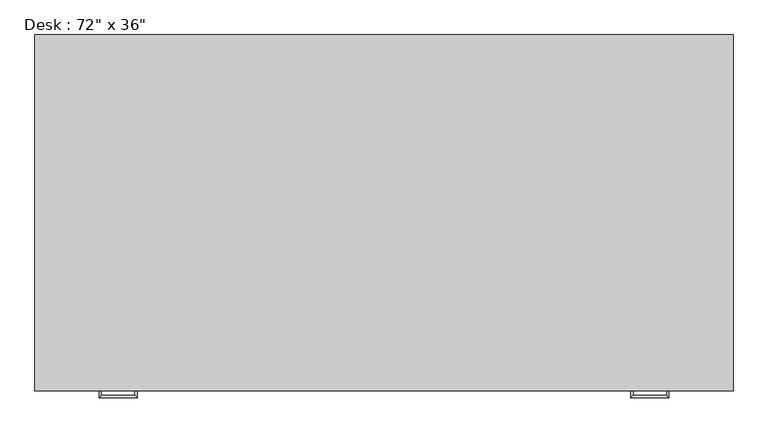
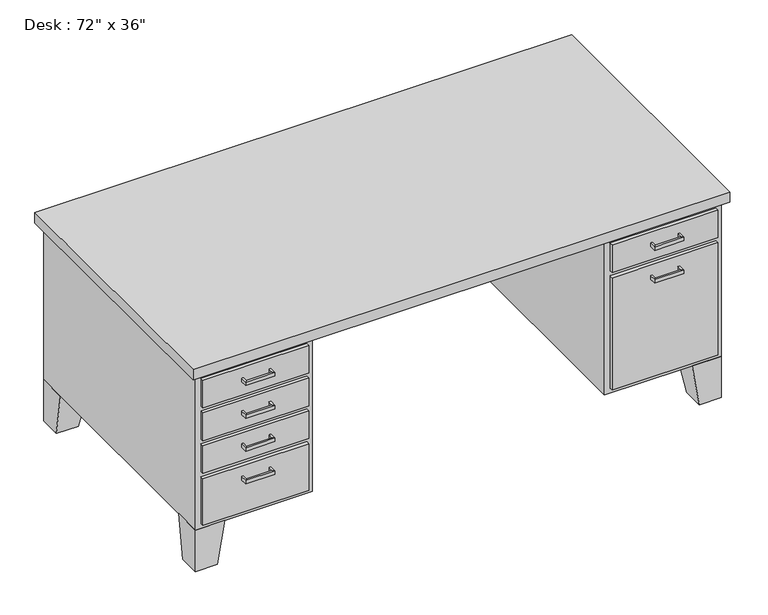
"""IFC4 building model written with IfcOpenShell, lengths in millimetres: furniture geometry."""

from ifc_helpers import new_model, si_unit, frame, origin, place, context, project, spatial, polyline, outline, extrude, faceted_brep, source, transform, mapped, element, save


def furniture_91cd4dc0(model_context):
    return source(origin(), model_context, "Body", "SolidModel", [
        extrude(outline(polyline([(1809.75, -914.4), (1809.75, -927.1), (1441.45, -927.1), (1441.45, -914.4), (1809.75, -914.4)])), frame((0.0, 0.0, 603.25), z_axis=(0.0, 0.0, 1.0), x_axis=(1.0, 0.0, 0.0)), (0.0, 0.0, 1.0), 101.6),
        extrude(outline(polyline([(1809.75, -914.4), (1809.75, -927.1), (1441.45, -927.1), (1441.45, -914.4), (1809.75, -914.4)])), frame((0.0, 0.0, 171.45), z_axis=(0.0, 0.0, 1.0), x_axis=(1.0, 0.0, 0.0)), (0.0, 0.0, 1.0), 412.75),
        extrude(outline(polyline([(387.35, -914.4), (387.35, -927.1), (19.05, -927.1), (19.05, -914.4), (387.35, -914.4)])), frame((0.0, 0.0, 603.25), z_axis=(0.0, 0.0, 1.0), x_axis=(1.0, 0.0, 0.0)), (0.0, 0.0, 1.0), 101.6),
        extrude(outline(polyline([(387.35, -914.4), (387.35, -927.1), (19.05, -927.1), (19.05, -914.4), (387.35, -914.4)])), frame((0.0, 0.0, 171.45), z_axis=(0.0, 0.0, 1.0), x_axis=(1.0, 0.0, 0.0)), (0.0, 0.0, 1.0), 171.45),
        extrude(outline(polyline([(387.35, -914.4), (387.35, -927.1), (19.05, -927.1), (19.05, -914.4), (387.35, -914.4)])), frame((0.0, 0.0, 482.6), z_axis=(0.0, 0.0, 1.0), x_axis=(1.0, 0.0, 0.0)), (0.0, 0.0, 1.0), 101.6),
        extrude(outline(polyline([(387.35, -914.4), (387.35, -927.1), (19.05, -927.1), (19.05, -914.4), (387.35, -914.4)])), frame((0.0, 0.0, 361.95), z_axis=(0.0, 0.0, 1.0), x_axis=(1.0, 0.0, 0.0)), (0.0, 0.0, 1.0), 101.6),
        faceted_brep([(1727.2, -914.4, 152.4), (1828.8, -914.4, 152.4), (1828.8, -812.8, 152.4), (1727.2, -812.8, 152.4), (1752.6, -914.4, 0.0), (1752.6, -838.2, 0.0), (1828.8, -838.2, 0.0), (1828.8, -914.4, 0.0)], [[[0, 1, 2, 3]], [[4, 5, 6, 7]], [[4, 0, 3, 5]], [[5, 3, 2, 6]], [[6, 2, 1, 7]], [[7, 1, 0, 4]]]),
        faceted_brep([(1727.2, 0.0, 152.4), (1727.2, -101.6, 152.4), (1828.8, -101.6, 152.4), (1828.8, 0.0, 152.4), (1752.6, 0.0, 0.0), (1828.8, 0.0, 0.0), (1828.8, -76.2, 0.0), (1752.6, -76.2, 0.0)], [[[0, 1, 2, 3]], [[4, 5, 6, 7]], [[4, 0, 3, 5]], [[5, 3, 2, 6]], [[6, 2, 1, 7]], [[7, 1, 0, 4]]]),
        faceted_brep([(101.6, 0.0, 152.4), (0.0, 0.0, 152.4), (0.0, -101.6, 152.4), (101.6, -101.6, 152.4), (76.2, 0.0, 0.0), (76.2, -76.2, 0.0), (0.0, -76.2, 0.0), (0.0, 0.0, 0.0)], [[[0, 1, 2, 3]], [[4, 5, 6, 7]], [[4, 0, 3, 5]], [[5, 3, 2, 6]], [[6, 2, 1, 7]], [[7, 1, 0, 4]]]),
        faceted_brep([(101.6, -914.4, 152.4), (101.6, -812.8, 152.4), (0.0, -812.8, 152.4), (0.0, -914.4, 152.4), (76.2, -914.4, 0.0), (0.0, -914.4, 0.0), (0.0, -838.2, 0.0), (76.2, -838.2, 0.0)], [[[0, 1, 2, 3]], [[4, 5, 6, 7]], [[4, 0, 3, 5]], [[5, 3, 2, 6]], [[6, 2, 1, 7]], [[7, 1, 0, 4]]]),
        extrude(outline(polyline([(1847.85, -933.45), (-19.05, -933.45), (-19.05, 19.05), (1847.85, 19.05), (1847.85, -933.45)])), frame((0.0, 0.0, 723.9), z_axis=(0.0, 0.0, 1.0), x_axis=(1.0, 0.0, 0.0)), (0.0, 0.0, 1.0), 38.1),
        extrude(outline(polyline([(406.4, -914.4), (0.0, -914.4), (0.0, 0.0), (1828.8, 0.0), (1828.8, -914.4), (1422.4, -914.4), (1422.4, -50.8), (406.4, -50.8), (406.4, -914.4)])), frame((0.0, 0.0, 152.4), z_axis=(0.0, 0.0, 1.0), x_axis=(1.0, 0.0, 0.0)), (0.0, 0.0, 1.0), 571.5),
        faceted_brep([(1670.05, -927.1, 546.1), (1676.4, -927.1, 546.1), (1676.4, -927.1, 533.4), (1670.05, -927.1, 533.4), (1670.05, -946.15, 533.4), (1670.05, -946.15, 546.1), (1676.4, -952.5, 533.4), (1676.4, -952.5, 546.1), (1581.15, -946.15, 533.4), (1581.15, -946.15, 546.1), (1574.8, -952.5, 533.4), (1574.8, -952.5, 546.1), (1581.15, -927.1, 546.1), (1581.15, -927.1, 533.4), (1574.8, -927.1, 533.4), (1574.8, -927.1, 546.1)], [[[0, 1, 2, 3]], [[3, 4, 5, 0]], [[2, 6, 4, 3]], [[1, 7, 6, 2]], [[0, 5, 7, 1]], [[4, 8, 9, 5]], [[6, 10, 8, 4]], [[7, 11, 10, 6]], [[5, 9, 11, 7]], [[12, 13, 14, 15]], [[8, 13, 12, 9]], [[10, 14, 13, 8]], [[11, 15, 14, 10]], [[9, 12, 15, 11]]]),
        faceted_brep([(1670.05, -927.1, 666.75), (1676.4, -927.1, 666.75), (1676.4, -927.1, 654.05), (1670.05, -927.1, 654.05), (1670.05, -946.15, 654.05), (1670.05, -946.15, 666.75), (1676.4, -952.5, 654.05), (1676.4, -952.5, 666.75), (1581.15, -946.15, 654.05), (1581.15, -946.15, 666.75), (1574.8, -952.5, 654.05), (1574.8, -952.5, 666.75), (1581.15, -927.1, 666.75), (1581.15, -927.1, 654.05), (1574.8, -927.1, 654.05), (1574.8, -927.1, 666.75)], [[[0, 1, 2, 3]], [[3, 4, 5, 0]], [[2, 6, 4, 3]], [[1, 7, 6, 2]], [[0, 5, 7, 1]], [[4, 8, 9, 5]], [[6, 10, 8, 4]], [[7, 11, 10, 6]], [[5, 9, 11, 7]], [[12, 13, 14, 15]], [[8, 13, 12, 9]], [[10, 14, 13, 8]], [[11, 15, 14, 10]], [[9, 12, 15, 11]]]),
        faceted_brep([(158.75, -927.1, 304.8), (158.75, -927.1, 292.1), (152.4, -927.1, 292.1), (152.4, -927.1, 304.8), (152.4, -952.5, 304.8), (158.75, -946.15, 304.8), (152.4, -952.5, 292.1), (158.75, -946.15, 292.1), (254.0, -952.5, 304.8), (247.65, -946.15, 304.8), (254.0, -952.5, 292.1), (247.65, -946.15, 292.1), (247.65, -927.1, 304.8), (254.0, -927.1, 304.8), (254.0, -927.1, 292.1), (247.65, -927.1, 292.1)], [[[0, 1, 2, 3]], [[3, 4, 5, 0]], [[2, 6, 4, 3]], [[1, 7, 6, 2]], [[0, 5, 7, 1]], [[4, 8, 9, 5]], [[6, 10, 8, 4]], [[7, 11, 10, 6]], [[5, 9, 11, 7]], [[12, 13, 14, 15]], [[8, 13, 12, 9]], [[10, 14, 13, 8]], [[11, 15, 14, 10]], [[9, 12, 15, 11]]]),
        faceted_brep([(158.75, -927.1, 425.45), (158.75, -927.1, 412.75), (152.4, -927.1, 412.75), (152.4, -927.1, 425.45), (152.4, -952.5, 425.45), (158.75, -946.15, 425.45), (152.4, -952.5, 412.75), (158.75, -946.15, 412.75), (254.0, -952.5, 425.45), (247.65, -946.15, 425.45), (254.0, -952.5, 412.75), (247.65, -946.15, 412.75), (247.65, -927.1, 425.45), (254.0, -927.1, 425.45), (254.0, -927.1, 412.75), (247.65, -927.1, 412.75)], [[[0, 1, 2, 3]], [[3, 4, 5, 0]], [[2, 6, 4, 3]], [[1, 7, 6, 2]], [[0, 5, 7, 1]], [[4, 8, 9, 5]], [[6, 10, 8, 4]], [[7, 11, 10, 6]], [[5, 9, 11, 7]], [[12, 13, 14, 15]], [[8, 13, 12, 9]], [[10, 14, 13, 8]], [[11, 15, 14, 10]], [[9, 12, 15, 11]]]),
        faceted_brep([(158.75, -927.1, 546.1), (158.75, -927.1, 533.4), (152.4, -927.1, 533.4), (152.4, -927.1, 546.1), (152.4, -952.5, 546.1), (158.75, -946.15, 546.1), (152.4, -952.5, 533.4), (158.75, -946.15, 533.4), (254.0, -952.5, 546.1), (247.65, -946.15, 546.1), (254.0, -952.5, 533.4), (247.65, -946.15, 533.4), (247.65, -927.1, 546.1), (254.0, -927.1, 546.1), (254.0, -927.1, 533.4), (247.65, -927.1, 533.4)], [[[0, 1, 2, 3]], [[3, 4, 5, 0]], [[2, 6, 4, 3]], [[1, 7, 6, 2]], [[0, 5, 7, 1]], [[4, 8, 9, 5]], [[6, 10, 8, 4]], [[7, 11, 10, 6]], [[5, 9, 11, 7]], [[12, 13, 14, 15]], [[8, 13, 12, 9]], [[10, 14, 13, 8]], [[11, 15, 14, 10]], [[9, 12, 15, 11]]]),
        faceted_brep([(158.75, -927.1, 666.75), (158.75, -927.1, 654.05), (152.4, -927.1, 654.05), (152.4, -927.1, 666.75), (152.4, -952.5, 666.75), (158.75, -946.15, 666.75), (152.4, -952.5, 654.05), (158.75, -946.15, 654.05), (254.0, -952.5, 666.75), (247.65, -946.15, 666.75), (254.0, -952.5, 654.05), (247.65, -946.15, 654.05), (247.65, -927.1, 666.75), (254.0, -927.1, 666.75), (254.0, -927.1, 654.05), (247.65, -927.1, 654.05)], [[[0, 1, 2, 3]], [[3, 4, 5, 0]], [[2, 6, 4, 3]], [[1, 7, 6, 2]], [[0, 5, 7, 1]], [[4, 8, 9, 5]], [[6, 10, 8, 4]], [[7, 11, 10, 6]], [[5, 9, 11, 7]], [[12, 13, 14, 15]], [[8, 13, 12, 9]], [[10, 14, 13, 8]], [[11, 15, 14, 10]], [[9, 12, 15, 11]]]),
    ])


if __name__ == "__main__":
    model = new_model("IFC4")
    model_context = context("Model", 3, world=origin())
    ifc_project = project(units=[si_unit("LENGTHUNIT", "METRE", prefix="MILLI")], contexts=[model_context])
    site = spatial("IfcSite", under=ifc_project)
    building = spatial("IfcBuilding", under=site)
    placement = place(None, origin())
    furniture_shape = furniture_91cd4dc0(model_context)
    element("IfcFurniture", 1, ObjectType="Desk : 72\" x 36\"", at=placement, inside=building, context=model_context, shape_type="MappedRepresentation", body=[
        mapped(furniture_shape, transform((0.0, 0.0, 0.0), x_axis=(1.0, 0.0, 0.0), y_axis=(0.0, 1.0, 0.0), z_axis=(0.0, 0.0, 1.0))),
    ])
    save(model, "model.ifc")
